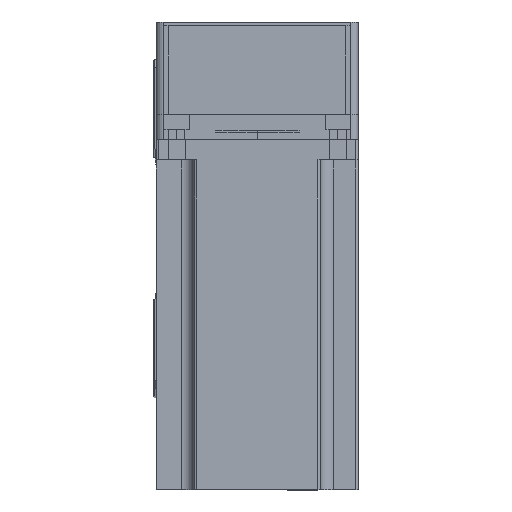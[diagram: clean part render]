
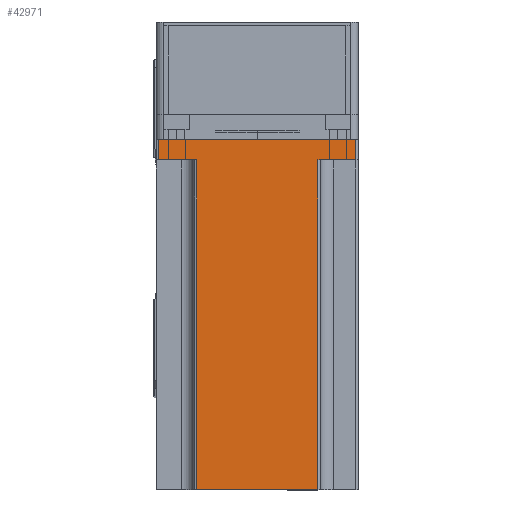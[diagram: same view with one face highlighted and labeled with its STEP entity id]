
A CAD part, top view. The second image highlights one B-rep face of the part: STEP entity #42971.
In plain terms, the highlighted planar face has unit normal (0, 0, 1) as drawn and (0, 1, 0) by its records, which use the part's own axes.
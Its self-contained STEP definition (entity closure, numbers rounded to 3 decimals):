
#13 = VECTOR ( 'NONE', #13497, 1000. ) ;
#1247 = EDGE_LOOP ( 'NONE', ( #36445, #52556, #10401, #34580, #59860, #59965, #37331, #37584 ) ) ;
#1607 = VERTEX_POINT ( 'NONE', #18096 ) ;
#1642 = VERTEX_POINT ( 'NONE', #56814 ) ;
#3132 = LINE ( 'NONE', #18152, #38523 ) ;
#4275 = LINE ( 'NONE', #24777, #42630 ) ;
#4809 = PLANE ( 'NONE',  #14528 ) ;
#4852 = EDGE_CURVE ( 'NONE', #1607, #28815, #36824, .T. ) ;
#6346 = CARTESIAN_POINT ( 'NONE',  ( -39., 40., 8. ) ) ;
#9191 = DIRECTION ( 'NONE',  ( 0., 0., 1. ) ) ;
#9802 = DIRECTION ( 'NONE',  ( 0., -1., 0. ) ) ;
#10401 = ORIENTED_EDGE ( 'NONE', *, *, #36610, .F. ) ;
#10431 = EDGE_CURVE ( 'NONE', #59824, #17543, #62242, .T. ) ;
#10751 = LINE ( 'NONE', #45020, #29601 ) ;
#11077 = VECTOR ( 'NONE', #58718, 1000. ) ;
#13497 = DIRECTION ( 'NONE',  ( 0., 0., -1. ) ) ;
#14528 = AXIS2_PLACEMENT_3D ( 'NONE', #38677, #9802, #43460 ) ;
#15324 = CARTESIAN_POINT ( 'NONE',  ( -39., 40., 0. ) ) ;
#16447 = CARTESIAN_POINT ( 'NONE',  ( -24., 40., 138.3 ) ) ;
#17116 = EDGE_CURVE ( 'NONE', #24992, #59824, #32369, .T. ) ;
#17543 = VERTEX_POINT ( 'NONE', #51597 ) ;
#18096 = CARTESIAN_POINT ( 'NONE',  ( 39., 40., 8. ) ) ;
#18152 = CARTESIAN_POINT ( 'NONE',  ( 40., 40., 138.3 ) ) ;
#18332 = EDGE_CURVE ( 'NONE', #27658, #28815, #28587, .T. ) ;
#18413 = CARTESIAN_POINT ( 'NONE',  ( 25., 40., 8. ) ) ;
#22192 = CARTESIAN_POINT ( 'NONE',  ( 24., 40., 138.3 ) ) ;
#24777 = CARTESIAN_POINT ( 'NONE',  ( 40., 40., 0. ) ) ;
#24992 = VERTEX_POINT ( 'NONE', #15324 ) ;
#25918 = DIRECTION ( 'NONE',  ( 0., 0., 1. ) ) ;
#26677 = EDGE_CURVE ( 'NONE', #1642, #24992, #4275, .T. ) ;
#27658 = VERTEX_POINT ( 'NONE', #22192 ) ;
#28556 = CARTESIAN_POINT ( 'NONE',  ( -39., 40., 138.3 ) ) ;
#28587 = LINE ( 'NONE', #32630, #13 ) ;
#28815 = VERTEX_POINT ( 'NONE', #37290 ) ;
#29413 = VECTOR ( 'NONE', #25918, 1000. ) ;
#29601 = VECTOR ( 'NONE', #30595, 1000. ) ;
#30595 = DIRECTION ( 'NONE',  ( 0., 0., -1. ) ) ;
#30876 = VECTOR ( 'NONE', #9191, 1000. ) ;
#32369 = LINE ( 'NONE', #28556, #30876 ) ;
#32630 = CARTESIAN_POINT ( 'NONE',  ( 24., 40., 138.3 ) ) ;
#34580 = ORIENTED_EDGE ( 'NONE', *, *, #18332, .T. ) ;
#36445 = ORIENTED_EDGE ( 'NONE', *, *, #10431, .T. ) ;
#36610 = EDGE_CURVE ( 'NONE', #27658, #39214, #3132, .T. ) ;
#36824 = LINE ( 'NONE', #18413, #62362 ) ;
#37290 = CARTESIAN_POINT ( 'NONE',  ( 24., 40., 8. ) ) ;
#37331 = ORIENTED_EDGE ( 'NONE', *, *, #26677, .T. ) ;
#37584 = ORIENTED_EDGE ( 'NONE', *, *, #17116, .T. ) ;
#38523 = VECTOR ( 'NONE', #42131, 1000. ) ;
#38677 = CARTESIAN_POINT ( 'NONE',  ( 40., 40., 138.3 ) ) ;
#38855 = FACE_OUTER_BOUND ( 'NONE', #1247, .T. ) ;
#39214 = VERTEX_POINT ( 'NONE', #47413 ) ;
#40027 = EDGE_CURVE ( 'NONE', #1607, #1642, #10751, .T. ) ;
#42131 = DIRECTION ( 'NONE',  ( -1., 0., 0. ) ) ;
#42630 = VECTOR ( 'NONE', #53620, 1000. ) ;
#42971 = ADVANCED_FACE ( 'NONE', ( #38855 ), #4809, .F. ) ;
#43460 = DIRECTION ( 'NONE',  ( 1., 0., 0. ) ) ;
#45020 = CARTESIAN_POINT ( 'NONE',  ( 39., 40., 138.3 ) ) ;
#45555 = EDGE_CURVE ( 'NONE', #17543, #39214, #56517, .T. ) ;
#47183 = DIRECTION ( 'NONE',  ( -1., 0., 0. ) ) ;
#47413 = CARTESIAN_POINT ( 'NONE',  ( -24., 40., 138.3 ) ) ;
#51597 = CARTESIAN_POINT ( 'NONE',  ( -24., 40., 8. ) ) ;
#52556 = ORIENTED_EDGE ( 'NONE', *, *, #45555, .T. ) ;
#53620 = DIRECTION ( 'NONE',  ( -1., 0., 0. ) ) ;
#53927 = CARTESIAN_POINT ( 'NONE',  ( -25., 40., 8. ) ) ;
#56517 = LINE ( 'NONE', #16447, #29413 ) ;
#56814 = CARTESIAN_POINT ( 'NONE',  ( 39., 40., 0. ) ) ;
#58718 = DIRECTION ( 'NONE',  ( 1., 0., 0. ) ) ;
#59824 = VERTEX_POINT ( 'NONE', #6346 ) ;
#59860 = ORIENTED_EDGE ( 'NONE', *, *, #4852, .F. ) ;
#59965 = ORIENTED_EDGE ( 'NONE', *, *, #40027, .T. ) ;
#62242 = LINE ( 'NONE', #53927, #11077 ) ;
#62362 = VECTOR ( 'NONE', #47183, 1000. ) ;
